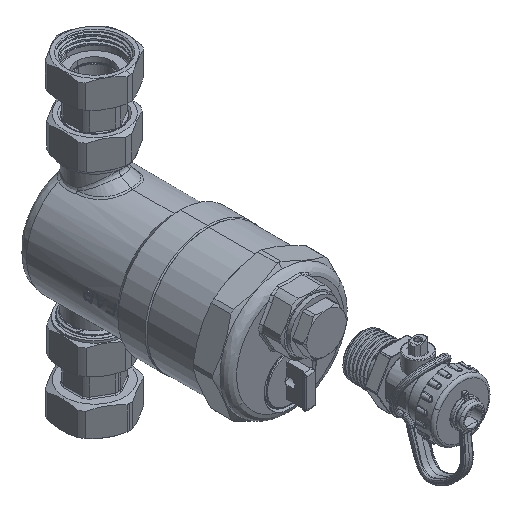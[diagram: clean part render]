
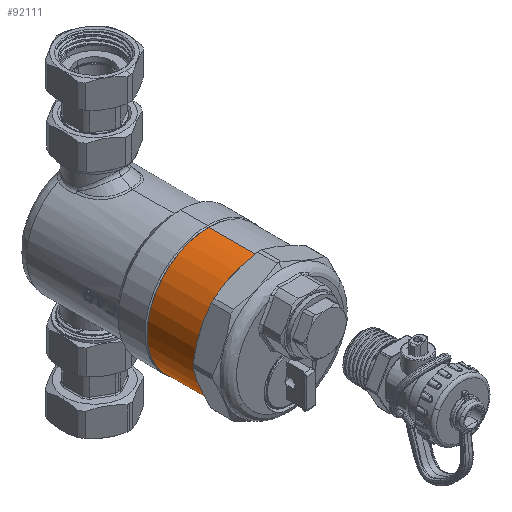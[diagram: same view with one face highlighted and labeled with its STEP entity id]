
A CAD part, isometric view. The second image highlights one B-rep face of the part: STEP entity #92111.
In plain terms, the highlighted cylindrical face has radius 29.7 mm (diameter 59.4 mm), a partial arc.
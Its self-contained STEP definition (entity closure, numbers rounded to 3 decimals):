
#155 = CARTESIAN_POINT ( 'NONE',  ( 0., 0., 39.1 ) ) ;
#1223 = AXIS2_PLACEMENT_3D ( 'NONE', #155, #32995, #99232 ) ;
#4207 = CARTESIAN_POINT ( 'NONE',  ( 0., 0., 1.5 ) ) ;
#4620 = VECTOR ( 'NONE', #20164, 1000. ) ;
#12691 = FACE_OUTER_BOUND ( 'NONE', #86601, .T. ) ;
#13017 = DIRECTION ( 'NONE',  ( 0., 0., -1. ) ) ;
#13767 = VERTEX_POINT ( 'NONE', #102028 ) ;
#20164 = DIRECTION ( 'NONE',  ( 0., 0., -1. ) ) ;
#26377 = EDGE_CURVE ( 'NONE', #89892, #13767, #51890, .T. ) ;
#27401 = AXIS2_PLACEMENT_3D ( 'NONE', #63742, #13017, #104005 ) ;
#28587 = DIRECTION ( 'NONE',  ( 0., 0., -1. ) ) ;
#32928 = CARTESIAN_POINT ( 'NONE',  ( 29.7, 0., 16. ) ) ;
#32995 = DIRECTION ( 'NONE',  ( 0., 0., -1. ) ) ;
#33596 = AXIS2_PLACEMENT_3D ( 'NONE', #68819, #92140, #92666 ) ;
#39725 = EDGE_CURVE ( 'NONE', #83676, #96588, #60467, .T. ) ;
#41818 = CIRCLE ( 'NONE', #1223, 29.7 ) ;
#42110 = ORIENTED_EDGE ( 'NONE', *, *, #70566, .F. ) ;
#43616 = AXIS2_PLACEMENT_3D ( 'NONE', #4207, #28587, #54023 ) ;
#44370 = EDGE_CURVE ( 'NONE', #103881, #89892, #41818, .T. ) ;
#46559 = CYLINDRICAL_SURFACE ( 'NONE', #43616, 29.7 ) ;
#49733 = EDGE_CURVE ( 'NONE', #83676, #103881, #62373, .T. ) ;
#51890 = LINE ( 'NONE', #76270, #53068 ) ;
#52422 = DIRECTION ( 'NONE',  ( 0., 0., -1. ) ) ;
#53068 = VECTOR ( 'NONE', #52422, 1000. ) ;
#54023 = DIRECTION ( 'NONE',  ( -1., 0., 0. ) ) ;
#59378 = CARTESIAN_POINT ( 'NONE',  ( 0., -29.7, 39.1 ) ) ;
#60467 = LINE ( 'NONE', #98660, #4620 ) ;
#62373 = CIRCLE ( 'NONE', #33596, 29.7 ) ;
#63742 = CARTESIAN_POINT ( 'NONE',  ( 0., 0., 16. ) ) ;
#64091 = CARTESIAN_POINT ( 'NONE',  ( -29.7, 0., 39.1 ) ) ;
#68819 = CARTESIAN_POINT ( 'NONE',  ( 0., 0., 39.1 ) ) ;
#69518 = ORIENTED_EDGE ( 'NONE', *, *, #49733, .T. ) ;
#70566 = EDGE_CURVE ( 'NONE', #96588, #13767, #86647, .T. ) ;
#72833 = ORIENTED_EDGE ( 'NONE', *, *, #44370, .T. ) ;
#76270 = CARTESIAN_POINT ( 'NONE',  ( -29.7, 0., 1.5 ) ) ;
#76841 = CARTESIAN_POINT ( 'NONE',  ( 29.7, 0., 39.1 ) ) ;
#83676 = VERTEX_POINT ( 'NONE', #76841 ) ;
#85773 = ORIENTED_EDGE ( 'NONE', *, *, #39725, .F. ) ;
#86601 = EDGE_LOOP ( 'NONE', ( #85773, #69518, #72833, #93155, #42110 ) ) ;
#86647 = CIRCLE ( 'NONE', #27401, 29.7 ) ;
#89892 = VERTEX_POINT ( 'NONE', #64091 ) ;
#92111 = ADVANCED_FACE ( 'NONE', ( #12691 ), #46559, .T. ) ;
#92140 = DIRECTION ( 'NONE',  ( 0., 0., -1. ) ) ;
#92666 = DIRECTION ( 'NONE',  ( -1., 0., 0. ) ) ;
#93155 = ORIENTED_EDGE ( 'NONE', *, *, #26377, .T. ) ;
#96588 = VERTEX_POINT ( 'NONE', #32928 ) ;
#98660 = CARTESIAN_POINT ( 'NONE',  ( 29.7, 0., 1.5 ) ) ;
#99232 = DIRECTION ( 'NONE',  ( -1., 0., 0. ) ) ;
#102028 = CARTESIAN_POINT ( 'NONE',  ( -29.7, 0., 16. ) ) ;
#103881 = VERTEX_POINT ( 'NONE', #59378 ) ;
#104005 = DIRECTION ( 'NONE',  ( 0.479, 0.878, 0. ) ) ;
